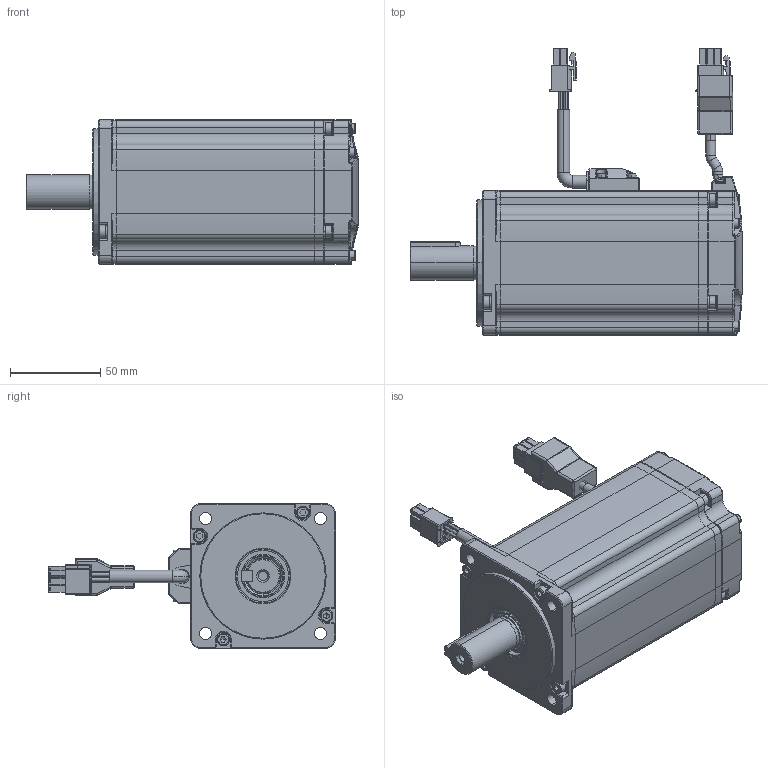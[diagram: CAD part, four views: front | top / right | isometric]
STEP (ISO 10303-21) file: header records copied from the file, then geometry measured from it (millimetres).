
FILE_DESCRIPTION (( 'STEP AP203' ), '1' );
FILE_NAME ('EM3A08A-100-A3-S（永磁交流伺服电机）.STEP', '2019-05-27T02:03:26', ( '' ), ( '' ), 'SwSTEP 2.0', 'SolidWorks 2018', '' );
FILE_SCHEMA (( 'CONFIG_CONTROL_DESIGN' ));
Length unit declared in the file: millimetre
Products named in the file (1): EM3A08A-100-A3-S（永磁交流伺服电机）
Bounding box: 184 x 158.7 x 80 mm (x, y, z)
Surface area: 77330.2 mm2 (no closed solid volume)
Topology: 0 solids, 53 shells, 1215 faces, 3697 edges, 2460 vertices
Faces by surface type: plane 484, cylinder 427, torus 119, cone 85, bspline 72, sphere 28
Entity records: 42576 total; most frequent: CARTESIAN_POINT 10060, DIRECTION 6966, ORIENTED_EDGE 6126, EDGE_CURVE 3663, VERTEX_POINT 2460, AXIS2_PLACEMENT_3D 2424, VECTOR 2118, LINE 2118
